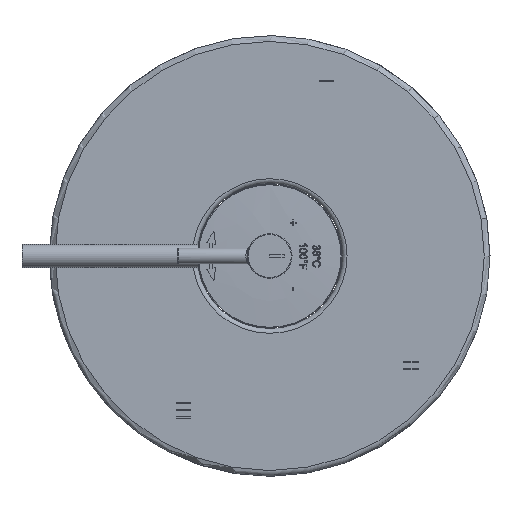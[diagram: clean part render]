
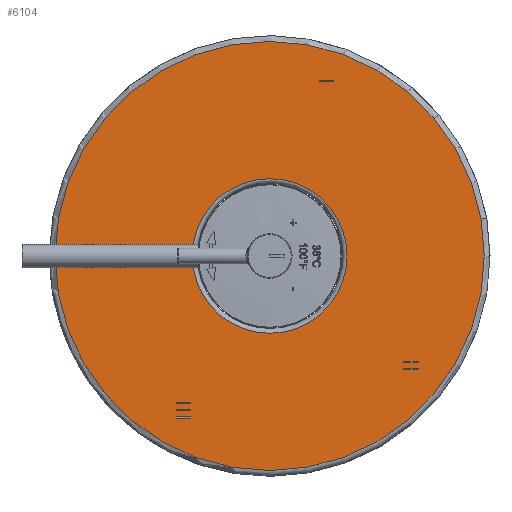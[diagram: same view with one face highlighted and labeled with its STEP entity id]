
A CAD part, front view. The second image highlights one B-rep face of the part: STEP entity #6104.
In plain terms, the highlighted planar face has unit normal (0, -1, 0) as drawn and (0, 0, 1) by its records, which use the part's own axes.
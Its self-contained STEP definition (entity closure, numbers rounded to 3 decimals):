
#132=LINE('',#9865,#530);
#135=LINE('',#9870,#533);
#137=LINE('',#9874,#535);
#139=LINE('',#9877,#537);
#140=LINE('',#9881,#538);
#144=LINE('',#9889,#542);
#147=LINE('',#9895,#545);
#150=LINE('',#9900,#548);
#156=LINE('',#9915,#554);
#159=LINE('',#9920,#557);
#161=LINE('',#9924,#559);
#163=LINE('',#9927,#561);
#164=LINE('',#9931,#562);
#168=LINE('',#9939,#566);
#171=LINE('',#9945,#569);
#174=LINE('',#9950,#572);
#180=LINE('',#9965,#578);
#183=LINE('',#9970,#581);
#185=LINE('',#9974,#583);
#187=LINE('',#9977,#585);
#188=LINE('',#9981,#586);
#192=LINE('',#9989,#590);
#195=LINE('',#9995,#593);
#198=LINE('',#10000,#596);
#530=VECTOR('',#7004,0.5);
#533=VECTOR('',#7009,5.);
#535=VECTOR('',#7013,5.);
#537=VECTOR('',#7017,0.5);
#538=VECTOR('',#7020,0.5);
#542=VECTOR('',#7026,5.);
#545=VECTOR('',#7031,5.);
#548=VECTOR('',#7036,0.5);
#554=VECTOR('',#7048,0.5);
#557=VECTOR('',#7053,5.);
#559=VECTOR('',#7057,5.);
#561=VECTOR('',#7061,0.5);
#562=VECTOR('',#7064,5.);
#566=VECTOR('',#7070,0.5);
#569=VECTOR('',#7075,0.5);
#572=VECTOR('',#7080,5.);
#578=VECTOR('',#7092,0.5);
#581=VECTOR('',#7097,5.);
#583=VECTOR('',#7101,5.);
#585=VECTOR('',#7105,0.5);
#586=VECTOR('',#7108,0.5);
#590=VECTOR('',#7114,5.);
#593=VECTOR('',#7119,5.);
#596=VECTOR('',#7124,0.5);
#1110=PLANE('',#6540);
#1313=CIRCLE('',#6539,26.85);
#1314=CIRCLE('',#6541,74.5);
#1462=FACE_BOUND('',#2036,.T.);
#1463=FACE_BOUND('',#2037,.T.);
#1464=FACE_BOUND('',#2038,.T.);
#1465=FACE_BOUND('',#2039,.T.);
#1466=FACE_BOUND('',#2040,.T.);
#1467=FACE_BOUND('',#2041,.T.);
#1468=FACE_BOUND('',#2042,.T.);
#1608=FACE_OUTER_BOUND('',#2035,.T.);
#2035=EDGE_LOOP('',(#4449));
#2036=EDGE_LOOP('',(#4450,#4451,#4452,#4453));
#2037=EDGE_LOOP('',(#4454,#4455,#4456,#4457));
#2038=EDGE_LOOP('',(#4458,#4459,#4460,#4461));
#2039=EDGE_LOOP('',(#4462,#4463,#4464,#4465));
#2040=EDGE_LOOP('',(#4466,#4467,#4468,#4469));
#2041=EDGE_LOOP('',(#4470,#4471,#4472,#4473));
#2042=EDGE_LOOP('',(#4474));
#2768=VERTEX_POINT('',#9863);
#2769=VERTEX_POINT('',#9864);
#2770=VERTEX_POINT('',#9869);
#2771=VERTEX_POINT('',#9873);
#2772=VERTEX_POINT('',#9879);
#2773=VERTEX_POINT('',#9880);
#2776=VERTEX_POINT('',#9888);
#2778=VERTEX_POINT('',#9894);
#2784=VERTEX_POINT('',#9913);
#2785=VERTEX_POINT('',#9914);
#2786=VERTEX_POINT('',#9919);
#2787=VERTEX_POINT('',#9923);
#2788=VERTEX_POINT('',#9929);
#2789=VERTEX_POINT('',#9930);
#2792=VERTEX_POINT('',#9938);
#2794=VERTEX_POINT('',#9944);
#2800=VERTEX_POINT('',#9963);
#2801=VERTEX_POINT('',#9964);
#2802=VERTEX_POINT('',#9969);
#2803=VERTEX_POINT('',#9973);
#2804=VERTEX_POINT('',#9979);
#2805=VERTEX_POINT('',#9980);
#2808=VERTEX_POINT('',#9988);
#2810=VERTEX_POINT('',#9994);
#2830=VERTEX_POINT('',#10091);
#2831=VERTEX_POINT('',#10094);
#3372=EDGE_CURVE('',#2768,#2769,#132,.T.);
#3375=EDGE_CURVE('',#2769,#2770,#135,.T.);
#3377=EDGE_CURVE('',#2771,#2768,#137,.T.);
#3379=EDGE_CURVE('',#2770,#2771,#139,.T.);
#3380=EDGE_CURVE('',#2772,#2773,#140,.T.);
#3384=EDGE_CURVE('',#2773,#2776,#144,.T.);
#3387=EDGE_CURVE('',#2778,#2772,#147,.T.);
#3390=EDGE_CURVE('',#2776,#2778,#150,.T.);
#3396=EDGE_CURVE('',#2784,#2785,#156,.T.);
#3399=EDGE_CURVE('',#2785,#2786,#159,.T.);
#3401=EDGE_CURVE('',#2787,#2784,#161,.T.);
#3403=EDGE_CURVE('',#2786,#2787,#163,.T.);
#3404=EDGE_CURVE('',#2788,#2789,#164,.T.);
#3408=EDGE_CURVE('',#2789,#2792,#168,.T.);
#3411=EDGE_CURVE('',#2794,#2788,#171,.T.);
#3414=EDGE_CURVE('',#2792,#2794,#174,.T.);
#3420=EDGE_CURVE('',#2800,#2801,#180,.T.);
#3423=EDGE_CURVE('',#2801,#2802,#183,.T.);
#3425=EDGE_CURVE('',#2803,#2800,#185,.T.);
#3427=EDGE_CURVE('',#2802,#2803,#187,.T.);
#3428=EDGE_CURVE('',#2804,#2805,#188,.T.);
#3432=EDGE_CURVE('',#2805,#2808,#192,.T.);
#3435=EDGE_CURVE('',#2810,#2804,#195,.T.);
#3438=EDGE_CURVE('',#2808,#2810,#198,.T.);
#3462=EDGE_CURVE('',#2830,#2830,#1313,.T.);
#3463=EDGE_CURVE('',#2831,#2831,#1314,.T.);
#4449=ORIENTED_EDGE('',*,*,#3463,.F.);
#4450=ORIENTED_EDGE('',*,*,#3372,.T.);
#4451=ORIENTED_EDGE('',*,*,#3375,.T.);
#4452=ORIENTED_EDGE('',*,*,#3379,.T.);
#4453=ORIENTED_EDGE('',*,*,#3377,.T.);
#4454=ORIENTED_EDGE('',*,*,#3380,.T.);
#4455=ORIENTED_EDGE('',*,*,#3384,.T.);
#4456=ORIENTED_EDGE('',*,*,#3390,.T.);
#4457=ORIENTED_EDGE('',*,*,#3387,.T.);
#4458=ORIENTED_EDGE('',*,*,#3396,.T.);
#4459=ORIENTED_EDGE('',*,*,#3399,.T.);
#4460=ORIENTED_EDGE('',*,*,#3403,.T.);
#4461=ORIENTED_EDGE('',*,*,#3401,.T.);
#4462=ORIENTED_EDGE('',*,*,#3404,.T.);
#4463=ORIENTED_EDGE('',*,*,#3408,.T.);
#4464=ORIENTED_EDGE('',*,*,#3414,.T.);
#4465=ORIENTED_EDGE('',*,*,#3411,.T.);
#4466=ORIENTED_EDGE('',*,*,#3420,.T.);
#4467=ORIENTED_EDGE('',*,*,#3423,.T.);
#4468=ORIENTED_EDGE('',*,*,#3427,.T.);
#4469=ORIENTED_EDGE('',*,*,#3425,.T.);
#4470=ORIENTED_EDGE('',*,*,#3428,.T.);
#4471=ORIENTED_EDGE('',*,*,#3432,.T.);
#4472=ORIENTED_EDGE('',*,*,#3438,.T.);
#4473=ORIENTED_EDGE('',*,*,#3435,.T.);
#4474=ORIENTED_EDGE('',*,*,#3462,.F.);
#6104=ADVANCED_FACE('',(#1608,#1462,#1463,#1464,#1465,#1466,#1467,#1468),
#1110,.F.);
#6539=AXIS2_PLACEMENT_3D('',#10092,#7184,#7185);
#6540=AXIS2_PLACEMENT_3D('',#10093,#7186,#7187);
#6541=AXIS2_PLACEMENT_3D('',#10095,#7188,#7189);
#7004=DIRECTION('',(-1.,0.,0.));
#7009=DIRECTION('',(0.,1.,0.));
#7013=DIRECTION('',(0.,-1.,0.));
#7017=DIRECTION('',(1.,0.,0.));
#7020=DIRECTION('',(-1.,0.,0.));
#7026=DIRECTION('',(0.,1.,0.));
#7031=DIRECTION('',(0.,-1.,0.));
#7036=DIRECTION('',(1.,0.,0.));
#7048=DIRECTION('',(-1.,0.,0.));
#7053=DIRECTION('',(0.,1.,0.));
#7057=DIRECTION('',(0.,-1.,0.));
#7061=DIRECTION('',(1.,0.,0.));
#7064=DIRECTION('',(0.,-1.,0.));
#7070=DIRECTION('',(-1.,0.,0.));
#7075=DIRECTION('',(1.,0.,0.));
#7080=DIRECTION('',(0.,1.,0.));
#7092=DIRECTION('',(-1.,0.,0.));
#7097=DIRECTION('',(0.,1.,0.));
#7101=DIRECTION('',(0.,-1.,0.));
#7105=DIRECTION('',(1.,0.,0.));
#7108=DIRECTION('',(-1.,0.,0.));
#7114=DIRECTION('',(0.,1.,0.));
#7119=DIRECTION('',(0.,-1.,0.));
#7124=DIRECTION('',(1.,0.,0.));
#7184=DIRECTION('center_axis',(0.,0.,1.));
#7185=DIRECTION('ref_axis',(-1.,0.,0.));
#7186=DIRECTION('center_axis',(0.,0.,-1.));
#7187=DIRECTION('ref_axis',(-1.,0.,0.));
#7188=DIRECTION('center_axis',(0.,0.,-1.));
#7189=DIRECTION('ref_axis',(-1.,0.,0.));
#9863=CARTESIAN_POINT('',(51.292,-32.5,12.));
#9864=CARTESIAN_POINT('',(50.792,-32.5,12.));
#9865=CARTESIAN_POINT('',(25.396,-32.5,12.));
#9869=CARTESIAN_POINT('',(50.792,-27.5,12.));
#9870=CARTESIAN_POINT('',(50.792,-13.75,12.));
#9873=CARTESIAN_POINT('',(51.292,-27.5,12.));
#9874=CARTESIAN_POINT('',(51.292,-16.25,12.));
#9877=CARTESIAN_POINT('',(25.646,-27.5,12.));
#9879=CARTESIAN_POINT('',(-60.58,17.231,12.));
#9880=CARTESIAN_POINT('',(-61.08,17.231,12.));
#9881=CARTESIAN_POINT('',(-30.54,17.231,12.));
#9888=CARTESIAN_POINT('',(-61.08,22.231,12.));
#9889=CARTESIAN_POINT('',(-61.08,11.116,12.));
#9894=CARTESIAN_POINT('',(-60.58,22.231,12.));
#9895=CARTESIAN_POINT('',(-60.58,8.616,12.));
#9900=CARTESIAN_POINT('',(-30.29,22.231,12.));
#9913=CARTESIAN_POINT('',(53.792,-32.5,12.));
#9914=CARTESIAN_POINT('',(53.292,-32.5,12.));
#9915=CARTESIAN_POINT('',(26.646,-32.5,12.));
#9919=CARTESIAN_POINT('',(53.292,-27.5,12.));
#9920=CARTESIAN_POINT('',(53.292,-13.75,12.));
#9923=CARTESIAN_POINT('',(53.792,-27.5,12.));
#9924=CARTESIAN_POINT('',(53.792,-16.25,12.));
#9927=CARTESIAN_POINT('',(26.896,-27.5,12.));
#9929=CARTESIAN_POINT('',(39.569,51.568,12.));
#9930=CARTESIAN_POINT('',(39.569,46.568,12.));
#9931=CARTESIAN_POINT('',(39.569,23.284,12.));
#9938=CARTESIAN_POINT('',(39.069,46.568,12.));
#9939=CARTESIAN_POINT('',(19.535,46.568,12.));
#9944=CARTESIAN_POINT('',(39.069,51.568,12.));
#9945=CARTESIAN_POINT('',(19.785,51.568,12.));
#9950=CARTESIAN_POINT('',(39.069,25.784,12.));
#9963=CARTESIAN_POINT('',(56.292,-32.5,12.));
#9964=CARTESIAN_POINT('',(55.792,-32.5,12.));
#9965=CARTESIAN_POINT('',(27.896,-32.5,12.));
#9969=CARTESIAN_POINT('',(55.792,-27.5,12.));
#9970=CARTESIAN_POINT('',(55.792,-13.75,12.));
#9973=CARTESIAN_POINT('',(56.292,-27.5,12.));
#9974=CARTESIAN_POINT('',(56.292,-16.25,12.));
#9977=CARTESIAN_POINT('',(28.146,-27.5,12.));
#9979=CARTESIAN_POINT('',(37.069,46.568,12.));
#9980=CARTESIAN_POINT('',(36.569,46.568,12.));
#9981=CARTESIAN_POINT('',(18.285,46.568,12.));
#9988=CARTESIAN_POINT('',(36.569,51.568,12.));
#9989=CARTESIAN_POINT('',(36.569,25.784,12.));
#9994=CARTESIAN_POINT('',(37.069,51.568,12.));
#9995=CARTESIAN_POINT('',(37.069,23.284,12.));
#10000=CARTESIAN_POINT('',(18.535,51.568,12.));
#10091=CARTESIAN_POINT('',(26.85,0.,12.));
#10092=CARTESIAN_POINT('Origin',(0.,0.,12.));
#10093=CARTESIAN_POINT('Origin',(0.,0.,12.));
#10094=CARTESIAN_POINT('',(74.5,0.,12.));
#10095=CARTESIAN_POINT('Origin',(0.,0.,12.));
